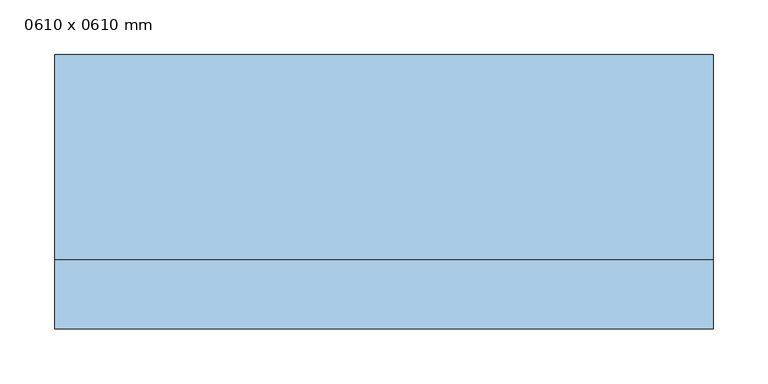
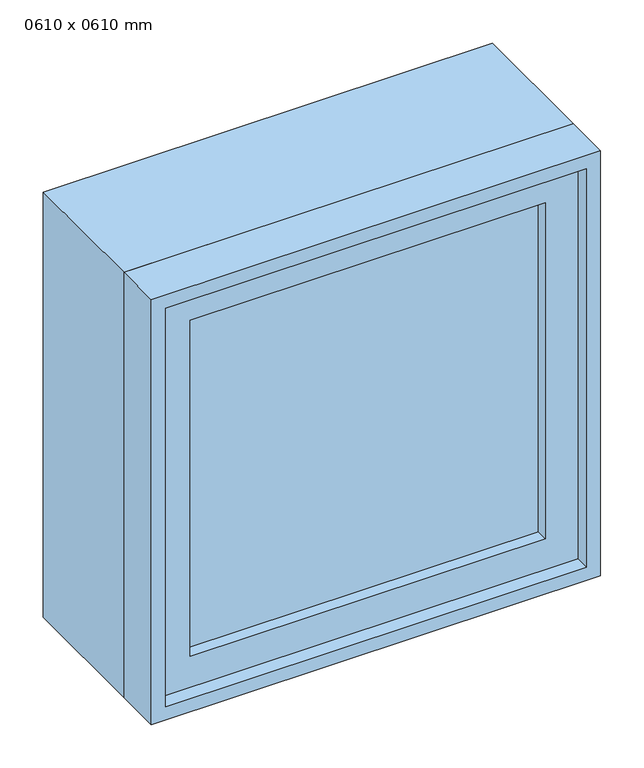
"""IFC4 building model written with IfcOpenShell, lengths in millimetres: window geometry, M_Fixado : 0610 x 0610 mm."""

from ifc_helpers import new_model, si_unit, frame, origin, place, context, project, spatial, polyline, outline, extrude, source, transform, mapped, element, save


def window_0610_x_0610_mm_b5667cc9(model_context):
    return source(origin(), model_context, "Body", "SweptSolid", [
        extrude(outline(polyline([(-237.0, -103.0), (-237.0, -91.0), (237.0, -91.0), (237.0, -103.0), (-237.0, -103.0)])), frame((0.0, 0.0, 978.0), z_axis=(0.0, 0.0, 1.0), x_axis=(1.0, 0.0, 0.0)), (0.0, 0.0, 1.0), 474.0),
        extrude(outline(polyline([(1496.0, -281.0), (934.0, -281.0), (934.0, 281.0), (1496.0, 281.0), (1496.0, -281.0)]), holes=[polyline([(1452.0, -237.0), (1452.0, 237.0), (978.0, 237.0), (978.0, -237.0), (1452.0, -237.0)])]), frame((0.0, -119.0, 0.0), z_axis=(0.0, 1.0, 0.0), x_axis=(0.0, 0.0, 1.0)), (0.0, 0.0, 1.0), 44.0),
        extrude(outline(polyline([(1515.0, -300.0), (915.0, -300.0), (915.0, 300.0), (1515.0, 300.0), (1515.0, -300.0)]), holes=[polyline([(1496.0, -281.0), (1496.0, 281.0), (934.0, 281.0), (934.0, -281.0), (1496.0, -281.0)])]), frame((0.0, -138.0, 0.0), z_axis=(0.0, 1.0, 0.0), x_axis=(0.0, 0.0, 1.0)), (0.0, 0.0, 1.0), 63.0),
        extrude(outline(polyline([(1515.0, -300.0), (915.0, -300.0), (915.0, 300.0), (1515.0, 300.0), (1515.0, -300.0)]), holes=[polyline([(1483.0, -268.0), (1483.0, 268.0), (947.0, 268.0), (947.0, -268.0), (1483.0, -268.0)])]), frame((0.0, -75.0, 0.0), z_axis=(0.0, 1.0, 0.0), x_axis=(0.0, 0.0, 1.0)), (0.0, 0.0, 1.0), 187.0),
    ])


if __name__ == "__main__":
    model = new_model("IFC4")
    model_context = context("Model", 3, world=origin())
    ifc_project = project(units=[si_unit("LENGTHUNIT", "METRE", prefix="MILLI")], contexts=[model_context])
    site = spatial("IfcSite", under=ifc_project)
    building = spatial("IfcBuilding", under=site)
    placement = place(None, origin())
    window_0610_x_0610_mm_shape = window_0610_x_0610_mm_b5667cc9(model_context)
    element("IfcWindow", 1, ObjectType="M_Fixado : 0610 x 0610 mm", at=placement, inside=building, context=model_context, shape_type="MappedRepresentation", body=[
        mapped(window_0610_x_0610_mm_shape, transform((0.0, 0.0, 0.0), x_axis=(1.0, 0.0, 0.0), y_axis=(0.0, 1.0, 0.0), z_axis=(0.0, 0.0, 1.0))),
    ])
    save(model, "model.ifc")
